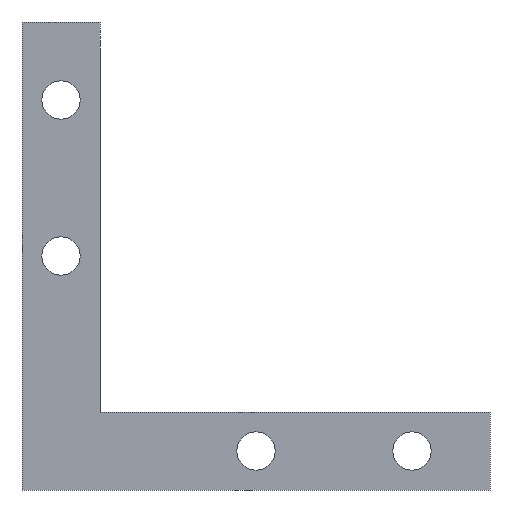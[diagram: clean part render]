
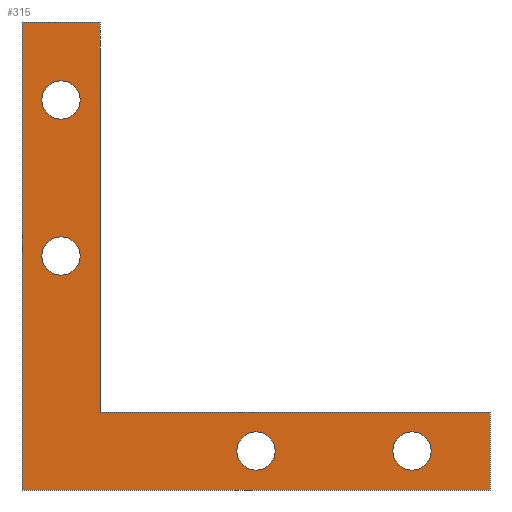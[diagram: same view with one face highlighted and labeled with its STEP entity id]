
A CAD part, front view. The second image highlights one B-rep face of the part: STEP entity #315.
In plain terms, the highlighted planar face has unit normal (0, -1, 0).
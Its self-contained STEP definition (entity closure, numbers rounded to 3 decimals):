
#28=CIRCLE('',#337,2.459);
#29=CIRCLE('',#338,2.459);
#30=CIRCLE('',#339,2.459);
#31=CIRCLE('',#340,2.459);
#66=ORIENTED_EDGE('',*,*,#106,.T.);
#67=ORIENTED_EDGE('',*,*,#107,.T.);
#68=ORIENTED_EDGE('',*,*,#108,.T.);
#69=ORIENTED_EDGE('',*,*,#109,.T.);
#70=ORIENTED_EDGE('',*,*,#84,.F.);
#71=ORIENTED_EDGE('',*,*,#100,.F.);
#72=ORIENTED_EDGE('',*,*,#97,.F.);
#73=ORIENTED_EDGE('',*,*,#94,.F.);
#74=ORIENTED_EDGE('',*,*,#91,.F.);
#75=ORIENTED_EDGE('',*,*,#88,.F.);
#84=EDGE_CURVE('',#110,#111,#130,.T.);
#88=EDGE_CURVE('',#111,#114,#134,.T.);
#91=EDGE_CURVE('',#114,#116,#137,.T.);
#94=EDGE_CURVE('',#116,#118,#140,.T.);
#97=EDGE_CURVE('',#118,#120,#143,.T.);
#100=EDGE_CURVE('',#120,#110,#146,.T.);
#106=EDGE_CURVE('',#126,#126,#28,.T.);
#107=EDGE_CURVE('',#127,#127,#29,.T.);
#108=EDGE_CURVE('',#128,#128,#30,.T.);
#109=EDGE_CURVE('',#129,#129,#31,.T.);
#110=VERTEX_POINT('',#408);
#111=VERTEX_POINT('',#409);
#114=VERTEX_POINT('',#417);
#116=VERTEX_POINT('',#423);
#118=VERTEX_POINT('',#429);
#120=VERTEX_POINT('',#435);
#126=VERTEX_POINT('',#453);
#127=VERTEX_POINT('',#455);
#128=VERTEX_POINT('',#457);
#129=VERTEX_POINT('',#459);
#130=LINE('',#407,#148);
#134=LINE('',#416,#152);
#137=LINE('',#422,#155);
#140=LINE('',#428,#158);
#143=LINE('',#434,#161);
#146=LINE('',#440,#164);
#148=VECTOR('',#349,1000.);
#152=VECTOR('',#355,1000.);
#155=VECTOR('',#360,1000.);
#158=VECTOR('',#365,1000.);
#161=VECTOR('',#370,1000.);
#164=VECTOR('',#375,1000.);
#177=EDGE_LOOP('',(#66));
#178=EDGE_LOOP('',(#67));
#179=EDGE_LOOP('',(#68));
#180=EDGE_LOOP('',(#69));
#181=EDGE_LOOP('',(#70,#71,#72,#73,#74,#75));
#201=FACE_BOUND('',#177,.T.);
#202=FACE_BOUND('',#178,.T.);
#203=FACE_BOUND('',#179,.T.);
#204=FACE_BOUND('',#180,.T.);
#205=FACE_BOUND('',#181,.T.);
#221=PLANE('',#336);
#315=ADVANCED_FACE('',(#201,#202,#203,#204,#205),#221,.F.);
#336=AXIS2_PLACEMENT_3D('',#451,#387,#388);
#337=AXIS2_PLACEMENT_3D('',#452,#389,#390);
#338=AXIS2_PLACEMENT_3D('',#454,#391,#392);
#339=AXIS2_PLACEMENT_3D('',#456,#393,#394);
#340=AXIS2_PLACEMENT_3D('',#458,#395,#396);
#349=DIRECTION('',(1.,0.,0.));
#355=DIRECTION('',(0.,0.,-1.));
#360=DIRECTION('',(1.,0.,0.));
#365=DIRECTION('',(0.,0.,-1.));
#370=DIRECTION('',(-1.,0.,0.));
#375=DIRECTION('',(0.,0.,1.));
#387=DIRECTION('',(0.,1.,0.));
#388=DIRECTION('',(0.,0.,1.));
#389=DIRECTION('',(0.,1.,0.));
#390=DIRECTION('',(0.,0.,-1.));
#391=DIRECTION('',(0.,1.,0.));
#392=DIRECTION('',(0.,0.,-1.));
#393=DIRECTION('',(0.,1.,0.));
#394=DIRECTION('',(0.,0.,-1.));
#395=DIRECTION('',(0.,1.,0.));
#396=DIRECTION('',(0.,0.,-1.));
#407=CARTESIAN_POINT('',(0.,0.,60.));
#408=CARTESIAN_POINT('',(0.,0.,60.));
#409=CARTESIAN_POINT('',(10.,0.,60.));
#416=CARTESIAN_POINT('',(10.,0.,60.));
#417=CARTESIAN_POINT('',(10.,0.,10.));
#422=CARTESIAN_POINT('',(10.,0.,10.));
#423=CARTESIAN_POINT('',(60.,0.,10.));
#428=CARTESIAN_POINT('',(60.,0.,10.));
#429=CARTESIAN_POINT('',(60.,0.,0.));
#434=CARTESIAN_POINT('',(60.,0.,0.));
#435=CARTESIAN_POINT('',(0.,0.,0.));
#440=CARTESIAN_POINT('',(0.,0.,0.));
#451=CARTESIAN_POINT('',(0.,0.,0.));
#452=CARTESIAN_POINT('',(30.,0.,5.));
#453=CARTESIAN_POINT('',(30.,0.,2.542));
#454=CARTESIAN_POINT('',(50.,0.,5.));
#455=CARTESIAN_POINT('',(50.,0.,2.542));
#456=CARTESIAN_POINT('',(5.,0.,30.));
#457=CARTESIAN_POINT('',(5.,0.,27.542));
#458=CARTESIAN_POINT('',(5.,0.,50.));
#459=CARTESIAN_POINT('',(5.,0.,47.542));
